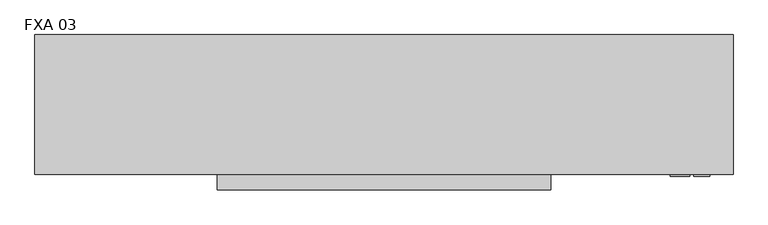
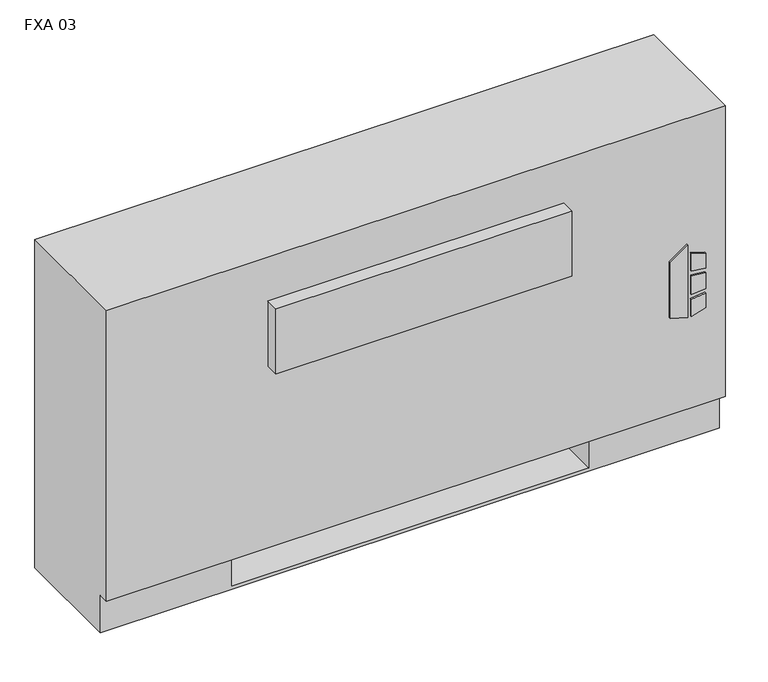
"""IFC4 building model written with IfcOpenShell, lengths in millimetres: proxy geometry, Vertical_Fan_Coil_Unit_-_FXA_-_IEC_-_4-Pipe_FS-FR_LH_2022 : FXA 03."""

from ifc_helpers import new_model, si_unit, point, frame, frame_2d, origin, place, context, project, spatial, polyline, circle_curve, trimmed, segment, composite_curve, outline, extrude, source, transform, mapped, element, save
from ifc_brep_helpers import plane_surface, revolved_surface, advanced_brep


def fxa_03_b8ff50d5(model_context):
    return source(origin(), model_context, "Body", "SolidModel", [
        extrude(outline(polyline([(263.9480703, 620.7868862), (254.0, 652.9602728), (396.1709244, 652.9602728), (373.1489183, 620.7868862), (263.9480703, 620.7868862)])), frame((0.0, 12.7, 0.0), z_axis=(0.0, 1.0, 0.0), x_axis=(0.0, 0.0, 1.0)), (0.0, 0.0, 1.0), 3.175),
        extrude(outline(polyline([(342.9473557, 659.7186058), (339.7449632, 685.8), (368.9738042, 685.8), (377.0382193, 659.7186058), (342.9473557, 659.7186058)])), frame((0.0, 12.7, 0.0), z_axis=(0.0, 1.0, 0.0), x_axis=(0.0, 0.0, 1.0)), (0.0, 0.0, 1.0), 3.175),
        extrude(outline(polyline([(291.0838288, 685.8), (287.4183279, 659.7186058), (254.0, 659.7186058), (262.6342372, 685.8), (291.0838288, 685.8)])), frame((0.0, 12.7, 0.0), z_axis=(0.0, 1.0, 0.0), x_axis=(0.0, 0.0, 1.0)), (0.0, 0.0, 1.0), 3.175),
        extrude(outline(polyline([(330.3989903, 685.8), (332.6808166, 659.7186058), (296.7432681, 659.7186058), (299.4845331, 685.8), (330.3989903, 685.8)])), frame((0.0, 12.7, 0.0), z_axis=(0.0, 1.0, 0.0), x_axis=(0.0, 0.0, 1.0)), (0.0, 0.0, 1.0), 3.175),
        extrude(outline(polyline([(603.25, 223.266), (603.25, 81.534), (482.6, 81.534), (482.6, 223.266), (603.25, 223.266)])), frame((0.0, 0.0, 327.025), z_axis=(0.0, 0.0, 1.0), x_axis=(1.0, 0.0, 0.0)), (0.0, 0.0, 1.0), 260.35),
        extrude(outline(composite_curve([segment(trimmed(circle_curve(frame_2d((-241.3, 130.175)), 9.525), [point((-250.825, 130.175))], [point((-231.775, 130.175))], False, "CARTESIAN"), True, "CONTINUOUS"), segment(trimmed(circle_curve(frame_2d((-241.3, 130.175)), 9.525), [point((-231.775, 130.175))], [point((-250.825, 130.175))], False, "CARTESIAN"), True, "CONTINUOUS")], self_intersect=False)), frame((0.0, 0.0, 101.6), z_axis=(0.0, 0.0, 1.0), x_axis=(1.0, 0.0, 0.0)), (0.0, 0.0, 1.0), 25.4),
        extrude(outline(polyline([(-342.9, 63.5), (-342.9, 196.85), (-177.8, 196.85), (-177.8, 63.5), (-342.9, 63.5)])), frame((0.0, 0.0, 127.0), z_axis=(0.0, 0.0, 1.0), x_axis=(1.0, 0.0, 0.0)), (0.0, 0.0, 1.0), 50.8),
        extrude(outline(polyline([(425.45, -9.525), (-120.65, -9.525), (-120.65, 15.875), (425.45, 15.875), (425.45, -9.525)])), frame((0.0, 0.0, 428.625), z_axis=(0.0, 0.0, 1.0), x_axis=(1.0, 0.0, 0.0)), (0.0, 0.0, 1.0), 127.0),
        extrude(outline(composite_curve([segment(trimmed(circle_curve(frame_2d((117.475, 472.44)), 7.9375), [point((117.475, 480.3775))], [point((117.475, 464.5025))], False, "CARTESIAN"), True, "CONTINUOUS"), segment(trimmed(circle_curve(frame_2d((117.475, 472.44)), 7.9375), [point((117.475, 464.5025))], [point((117.475, 480.3775))], False, "CARTESIAN"), True, "CONTINUOUS")], self_intersect=False)), frame((-228.6, 0.0, 0.0), z_axis=(1.0, 0.0, 0.0), x_axis=(0.0, 1.0, 0.0)), (0.0, 0.0, 1.0), 50.8),
        extrude(outline(composite_curve([segment(trimmed(circle_curve(frame_2d((164.0586, 445.897)), 7.9375), [point((164.0586, 453.8345))], [point((164.0586, 437.9595))], False, "CARTESIAN"), True, "CONTINUOUS"), segment(trimmed(circle_curve(frame_2d((164.0586, 445.897)), 7.9375), [point((164.0586, 437.9595))], [point((164.0586, 453.8345))], False, "CARTESIAN"), True, "CONTINUOUS")], self_intersect=False)), frame((-228.6, 0.0, 0.0), z_axis=(1.0, 0.0, 0.0), x_axis=(0.0, 1.0, 0.0)), (0.0, 0.0, 1.0), 50.8),
        extrude(outline(composite_curve([segment(trimmed(circle_curve(frame_2d((130.175, 554.99)), 7.9502), [point((130.175, 562.9402))], [point((130.175, 547.0398))], False, "CARTESIAN"), True, "CONTINUOUS"), segment(trimmed(circle_curve(frame_2d((130.175, 554.99)), 7.9502), [point((130.175, 547.0398))], [point((130.175, 562.9402))], False, "CARTESIAN"), True, "CONTINUOUS")], self_intersect=False)), frame((-228.6, 0.0, 0.0), z_axis=(1.0, 0.0, 0.0), x_axis=(0.0, 1.0, 0.0)), (0.0, 0.0, 1.0), 50.8),
        extrude(outline(composite_curve([segment(trimmed(circle_curve(frame_2d((53.975, 416.56)), 7.9502), [point((53.975, 424.5102))], [point((53.975, 408.6098))], False, "CARTESIAN"), True, "CONTINUOUS"), segment(trimmed(circle_curve(frame_2d((53.975, 416.56)), 7.9502), [point((53.975, 408.6098))], [point((53.975, 424.5102))], False, "CARTESIAN"), True, "CONTINUOUS")], self_intersect=False)), frame((-228.6, 0.0, 0.0), z_axis=(1.0, 0.0, 0.0), x_axis=(0.0, 1.0, 0.0)), (0.0, 0.0, 1.0), 50.8),
        advanced_brep(
        [(723.9, 244.475, 641.35), (-419.1, 244.475, 641.35), (-419.1, 15.875, 641.35), (723.9, 15.875, 641.35), (-419.1, 244.475, 0.0), (723.9, 244.475, 0.0), (723.9, 34.925, 0.0), (-419.1, 34.925, 0.0), (482.6, 244.475, 73.025), (711.2, 244.475, 73.025), (711.2, 244.475, 628.65), (482.6, 244.475, 628.65), (482.6, 244.475, 414.8650565), (511.175, 244.475, 414.8650565), (511.175, 244.475, 385.2349435), (482.6, 244.475, 385.2349435), (482.6, 244.475, 287.3375), (511.175, 244.475, 287.3375), (511.175, 244.475, 258.7625), (482.6, 244.475, 258.7625), (482.6, 244.475, 141.2875), (511.175, 244.475, 141.2875), (511.175, 244.475, 112.7125), (482.6, 244.475, 112.7125), (-177.8, 244.475, 628.65), (-406.4, 244.475, 628.65), (-406.4, 244.475, 73.025), (-177.8, 244.475, 73.025), (-177.8, 244.475, 112.7125), (-206.375, 244.475, 112.7125), (-206.375, 244.475, 141.2875), (-177.8, 244.475, 141.2875), (-177.8, 244.475, 258.7625), (-206.375, 244.475, 258.7625), (-206.375, 244.475, 287.3375), (-177.8, 244.475, 287.3375), (-177.8, 244.475, 385.2349435), (-206.375, 244.475, 385.2349435), (-206.375, 244.475, 414.8650565), (-177.8, 244.475, 414.8650565), (500.8626, 244.475, 127.0), (489.7374, 244.475, 127.0), (500.8626, 244.475, 400.05), (489.7374, 244.475, 400.05), (500.8626, 244.475, 273.05), (489.7374, 244.475, 273.05), (-184.9374, 244.475, 127.0), (-196.0626, 244.475, 127.0), (-184.9374, 244.475, 273.05), (-196.0626, 244.475, 273.05), (-184.9374, 244.475, 400.05), (-196.0626, 244.475, 400.05), (-419.1, 34.925, 73.025), (-419.1, 15.875, 73.025), (723.9, 15.875, 73.025), (723.9, 34.925, 73.025), (-177.8, 34.925, 73.025), (-177.8, 219.075, 73.025), (482.6, 219.075, 73.025), (482.6, 34.925, 73.025), (482.6, 34.925, 6.35), (-177.8, 34.925, 6.35), (482.6, 41.275, 628.65), (711.2, 41.275, 628.65), (711.2, 41.275, 73.025), (482.6, 41.275, 73.025), (-177.8, 41.275, 628.65), (-177.8, 41.275, 73.025), (-406.4, 41.275, 73.025), (-406.4, 41.275, 628.65), (482.6, 219.075, 73.025), (482.6, 238.125, 112.7125), (482.6, 238.125, 141.2875), (482.6, 238.125, 258.7625), (482.6, 238.125, 287.3375), (482.6, 238.125, 385.2349435), (482.6, 238.125, 414.8650565), (-177.8, 219.075, 73.025), (-177.8, 238.125, 414.8650565), (-177.8, 238.125, 385.2349435), (-177.8, 238.125, 287.3375), (-177.8, 238.125, 258.7625), (-177.8, 238.125, 141.2875), (-177.8, 238.125, 112.7125), (-177.8, 219.075, 6.35), (482.6, 219.075, 6.35), (511.175, 238.125, 112.7125), (511.175, 238.125, 141.2875), (489.7374, 238.125, 127.0), (500.8626, 238.125, 127.0), (511.175, 238.125, 258.7625), (511.175, 238.125, 287.3375), (489.7374, 238.125, 273.05), (500.8626, 238.125, 273.05), (511.175, 238.125, 385.2349435), (511.175, 238.125, 414.8650565), (489.7374, 238.125, 400.05), (500.8626, 238.125, 400.05), (-206.375, 238.125, 141.2875), (-206.375, 238.125, 112.7125), (-196.0626, 238.125, 127.0), (-184.9374, 238.125, 127.0), (-206.375, 238.125, 287.3375), (-206.375, 238.125, 258.7625), (-196.0626, 238.125, 273.05), (-184.9374, 238.125, 273.05), (-206.375, 238.125, 414.8650565), (-206.375, 238.125, 385.2349435), (-196.0626, 238.125, 400.05), (-184.9374, 238.125, 400.05)],
        [
            (0, 1),
            (1, 2),
            (2, 3),
            (3, 0),
            (4, 5),
            (5, 6),
            (6, 7),
            (7, 4),
            (0, 5),
            (4, 1),
            (8, 9),
            (9, 10),
            (10, 11),
            (11, 12),
            (12, 13),
            (13, 14),
            (14, 15),
            (15, 16),
            (16, 17),
            (17, 18),
            (18, 19),
            (19, 20),
            (20, 21),
            (21, 22),
            (22, 23),
            (23, 8),
            (24, 25),
            (25, 26),
            (26, 27),
            (27, 28),
            (28, 29),
            (29, 30),
            (30, 31),
            (31, 32),
            (32, 33),
            (33, 34),
            (34, 35),
            (35, 36),
            (36, 37),
            (37, 38),
            (38, 39),
            (39, 24),
            (40, 41, circle_curve(frame((495.3, 244.475, 127.0), z_axis=(0.0, -1.0, 0.0), x_axis=(-1.0, 0.0, 0.0)), 5.5626)),
            (41, 40, circle_curve(frame((495.3, 244.475, 127.0), z_axis=(0.0, -1.0, 0.0), x_axis=(-1.0, 0.0, 0.0)), 5.5626)),
            (42, 43, circle_curve(frame((495.3, 244.475, 400.05), z_axis=(0.0, -1.0, 0.0), x_axis=(-1.0, 0.0, 0.0)), 5.5626)),
            (43, 42, circle_curve(frame((495.3, 244.475, 400.05), z_axis=(0.0, -1.0, 0.0), x_axis=(-1.0, 0.0, 0.0)), 5.5626)),
            (44, 45, circle_curve(frame((495.3, 244.475, 273.05), z_axis=(0.0, -1.0, 0.0), x_axis=(-1.0, 0.0, 0.0)), 5.5626)),
            (45, 44, circle_curve(frame((495.3, 244.475, 273.05), z_axis=(0.0, -1.0, 0.0), x_axis=(-1.0, 0.0, 0.0)), 5.5626)),
            (46, 47, circle_curve(frame((-190.5, 244.475, 127.0), z_axis=(0.0, -1.0, 0.0), x_axis=(-1.0, 0.0, 0.0)), 5.5626)),
            (47, 46, circle_curve(frame((-190.5, 244.475, 127.0), z_axis=(0.0, -1.0, 0.0), x_axis=(-1.0, 0.0, 0.0)), 5.5626)),
            (48, 49, circle_curve(frame((-190.5, 244.475, 273.05), z_axis=(0.0, -1.0, 0.0), x_axis=(-1.0, 0.0, 0.0)), 5.5626)),
            (49, 48, circle_curve(frame((-190.5, 244.475, 273.05), z_axis=(0.0, -1.0, 0.0), x_axis=(-1.0, 0.0, 0.0)), 5.5626)),
            (50, 51, circle_curve(frame((-190.5, 244.475, 400.05), z_axis=(0.0, -1.0, 0.0), x_axis=(-1.0, 0.0, 0.0)), 5.5626)),
            (51, 50, circle_curve(frame((-190.5, 244.475, 400.05), z_axis=(0.0, -1.0, 0.0), x_axis=(-1.0, 0.0, 0.0)), 5.5626)),
            (7, 52),
            (52, 53),
            (53, 2),
            (53, 54),
            (54, 3),
            (54, 55),
            (55, 6),
            (52, 56),
            (56, 57),
            (57, 58),
            (58, 59),
            (59, 55),
            (59, 60),
            (60, 61),
            (61, 56),
            (62, 63),
            (63, 64),
            (64, 65),
            (65, 62),
            (66, 67),
            (67, 68),
            (68, 69),
            (69, 66),
            (65, 70),
            (70, 8),
            (23, 71),
            (71, 72),
            (72, 20),
            (19, 73),
            (73, 74),
            (74, 16),
            (15, 75),
            (75, 76),
            (76, 12),
            (11, 62),
            (64, 9),
            (63, 10),
            (69, 25),
            (24, 66),
            (68, 26),
            (67, 77),
            (77, 27),
            (39, 78),
            (78, 79),
            (79, 36),
            (35, 80),
            (80, 81),
            (81, 32),
            (31, 82),
            (82, 83),
            (83, 28),
            (57, 84),
            (84, 85),
            (85, 58),
            (85, 60),
            (84, 61),
            (71, 86),
            (86, 87),
            (87, 72),
            (88, 89, circle_curve(frame((495.3, 238.125, 127.0), z_axis=(0.0, 1.0, 0.0), x_axis=(-1.0, 0.0, 0.0)), 5.5626)),
            (89, 88, circle_curve(frame((495.3, 238.125, 127.0), z_axis=(0.0, 1.0, 0.0), x_axis=(-1.0, 0.0, 0.0)), 5.5626)),
            (73, 90),
            (90, 91),
            (91, 74),
            (92, 93, circle_curve(frame((495.3, 238.125, 273.05), z_axis=(0.0, 1.0, 0.0), x_axis=(-1.0, 0.0, 0.0)), 5.5626)),
            (93, 92, circle_curve(frame((495.3, 238.125, 273.05), z_axis=(0.0, 1.0, 0.0), x_axis=(-1.0, 0.0, 0.0)), 5.5626)),
            (75, 94),
            (94, 95),
            (95, 76),
            (96, 97, circle_curve(frame((495.3, 238.125, 400.05), z_axis=(0.0, 1.0, 0.0), x_axis=(-1.0, 0.0, 0.0)), 5.5626)),
            (97, 96, circle_curve(frame((495.3, 238.125, 400.05), z_axis=(0.0, 1.0, 0.0), x_axis=(-1.0, 0.0, 0.0)), 5.5626)),
            (98, 99),
            (99, 83),
            (82, 98),
            (100, 101, circle_curve(frame((-190.5, 238.125, 127.0), z_axis=(0.0, 1.0, 0.0), x_axis=(-1.0, 0.0, 0.0)), 5.5626)),
            (101, 100, circle_curve(frame((-190.5, 238.125, 127.0), z_axis=(0.0, 1.0, 0.0), x_axis=(-1.0, 0.0, 0.0)), 5.5626)),
            (102, 103),
            (103, 81),
            (80, 102),
            (104, 105, circle_curve(frame((-190.5, 238.125, 273.05), z_axis=(0.0, 1.0, 0.0), x_axis=(-1.0, 0.0, 0.0)), 5.5626)),
            (105, 104, circle_curve(frame((-190.5, 238.125, 273.05), z_axis=(0.0, 1.0, 0.0), x_axis=(-1.0, 0.0, 0.0)), 5.5626)),
            (106, 107),
            (107, 79),
            (78, 106),
            (108, 109, circle_curve(frame((-190.5, 238.125, 400.05), z_axis=(0.0, 1.0, 0.0), x_axis=(-1.0, 0.0, 0.0)), 5.5626)),
            (109, 108, circle_curve(frame((-190.5, 238.125, 400.05), z_axis=(0.0, 1.0, 0.0), x_axis=(-1.0, 0.0, 0.0)), 5.5626)),
            (87, 21),
            (86, 22),
            (91, 17),
            (90, 18),
            (95, 13),
            (94, 14),
            (30, 98),
            (99, 29),
            (34, 102),
            (103, 33),
            (38, 106),
            (107, 37),
            (88, 41),
            (40, 89),
            (96, 43),
            (42, 97),
            (92, 45),
            (44, 93),
            (100, 47),
            (46, 101),
            (104, 49),
            (48, 105),
            (108, 51),
            (50, 109),
        ],
        [
            plane_surface(frame((-419.1, 244.475, 641.35), z_axis=(0.0, 0.0, 1.0), x_axis=(-1.0, 0.0, 0.0))),
            plane_surface(frame((-419.1, 244.475, 0.0), z_axis=(0.0, 0.0, -1.0), x_axis=(1.0, 0.0, 0.0))),
            plane_surface(frame((723.9, 244.475, 641.35), z_axis=(0.0, 1.0, 0.0), x_axis=(0.0, 0.0, -1.0))),
            plane_surface(frame((-419.1, 244.475, 641.35), z_axis=(-1.0, 0.0, 0.0), x_axis=(0.0, 0.0, -1.0))),
            plane_surface(frame((-419.1, 15.875, 641.35), z_axis=(0.0, -1.0, 0.0), x_axis=(0.0, 0.0, -1.0))),
            plane_surface(frame((723.9, 15.875, 641.35), z_axis=(1.0, 0.0, 0.0), x_axis=(0.0, 0.0, -1.0))),
            plane_surface(frame((-419.1, 15.875, 73.025), z_axis=(0.0, 0.0, -1.0), x_axis=(1.0, 0.0, 0.0))),
            plane_surface(frame((-419.1, 34.925, 73.025), z_axis=(0.0, -1.0, 0.0), x_axis=(1.0, 0.0, 0.0))),
            plane_surface(frame((482.6, 41.275, 628.65), z_axis=(0.0, 1.0, 0.0), x_axis=(0.0, 0.0, -1.0))),
            plane_surface(frame((482.6, 41.275, 628.65), z_axis=(1.0, 0.0, 0.0), x_axis=(0.0, 1.0, 0.0))),
            plane_surface(frame((482.6, 41.275, 73.025), z_axis=(0.0, 0.0, 1.0), x_axis=(0.0, 1.0, 0.0))),
            plane_surface(frame((711.2, 41.275, 73.025), z_axis=(-1.0, 0.0, 0.0), x_axis=(0.0, 1.0, 0.0))),
            plane_surface(frame((711.2, 41.275, 628.65), z_axis=(0.0, 0.0, -1.0), x_axis=(0.0, 1.0, 0.0))),
            plane_surface(frame((-177.8, 41.275, 628.65), z_axis=(0.0, 0.0, -1.0), x_axis=(0.0, 1.0, 0.0))),
            plane_surface(frame((-406.4, 41.275, 628.65), z_axis=(1.0, 0.0, 0.0), x_axis=(0.0, 1.0, 0.0))),
            plane_surface(frame((-406.4, 41.275, 73.025), z_axis=(0.0, 0.0, 1.0), x_axis=(0.0, 1.0, 0.0))),
            plane_surface(frame((-177.8, 41.275, 73.025), z_axis=(-1.0, 0.0, 0.0), x_axis=(0.0, 1.0, 0.0))),
            plane_surface(frame((482.6, 219.075, 73.025), z_axis=(0.0, -1.0, 0.0), x_axis=(0.0, 0.0, -1.0))),
            plane_surface(frame((482.6, 219.075, 73.025), z_axis=(-1.0, 0.0, 0.0), x_axis=(0.0, -1.0, 0.0))),
            plane_surface(frame((482.6, 219.075, 6.35), z_axis=(0.0, 0.0, 1.0), x_axis=(0.0, -1.0, 0.0))),
            plane_surface(frame((-177.8, 219.075, 6.35), z_axis=(1.0, 0.0, 0.0), x_axis=(0.0, -1.0, 0.0))),
            plane_surface(frame((511.175, 238.125, 141.2875), z_axis=(0.0, -1.0, 0.0), x_axis=(-1.0, 0.0, 0.0))),
            plane_surface(frame((482.6, 244.475, 141.2875), z_axis=(0.0, 0.0, 1.0), x_axis=(0.0, -1.0, 0.0))),
            plane_surface(frame((511.175, 244.475, 141.2875), z_axis=(1.0, 0.0, 0.0), x_axis=(0.0, -1.0, 0.0))),
            plane_surface(frame((511.175, 244.475, 112.7125), z_axis=(0.0, 0.0, -1.0), x_axis=(0.0, -1.0, 0.0))),
            plane_surface(frame((482.6, 244.475, 287.3375), z_axis=(0.0, 0.0, 1.0), x_axis=(0.0, -1.0, 0.0))),
            plane_surface(frame((511.175, 244.475, 287.3375), z_axis=(1.0, 0.0, 0.0), x_axis=(0.0, -1.0, 0.0))),
            plane_surface(frame((511.175, 244.475, 258.7625), z_axis=(0.0, 0.0, -1.0), x_axis=(0.0, -1.0, 0.0))),
            plane_surface(frame((482.6, 244.475, 414.8650565), z_axis=(0.0, 0.0, 1.0), x_axis=(0.0, -1.0, 0.0))),
            plane_surface(frame((511.175, 244.475, 414.8650565), z_axis=(1.0, 0.0, 0.0), x_axis=(0.0, -1.0, 0.0))),
            plane_surface(frame((511.175, 244.475, 385.2349435), z_axis=(0.0, 0.0, -1.0), x_axis=(0.0, -1.0, 0.0))),
            plane_surface(frame((-206.375, 244.475, 141.2875), z_axis=(0.0, 0.0, 1.0), x_axis=(0.0, -1.0, 0.0))),
            plane_surface(frame((-177.8, 244.475, 112.7125), z_axis=(0.0, 0.0, -1.0), x_axis=(0.0, -1.0, 0.0))),
            plane_surface(frame((-206.375, 244.475, 112.7125), z_axis=(-1.0, 0.0, 0.0), x_axis=(0.0, -1.0, 0.0))),
            plane_surface(frame((-206.375, 244.475, 287.3375), z_axis=(0.0, 0.0, 1.0), x_axis=(0.0, -1.0, 0.0))),
            plane_surface(frame((-177.8, 244.475, 258.7625), z_axis=(0.0, 0.0, -1.0), x_axis=(0.0, -1.0, 0.0))),
            plane_surface(frame((-206.375, 244.475, 258.7625), z_axis=(-1.0, 0.0, 0.0), x_axis=(0.0, -1.0, 0.0))),
            plane_surface(frame((-206.375, 244.475, 414.8650565), z_axis=(0.0, 0.0, 1.0), x_axis=(0.0, -1.0, 0.0))),
            plane_surface(frame((-177.8, 244.475, 385.2349435), z_axis=(0.0, 0.0, -1.0), x_axis=(0.0, -1.0, 0.0))),
            plane_surface(frame((-206.375, 244.475, 385.2349435), z_axis=(-1.0, 0.0, 0.0), x_axis=(0.0, -1.0, 0.0))),
            revolved_surface(polyline([(489.73740000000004, 238.125, 127.0), (489.73740000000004, 244.475, 127.0)]), (495.3, 244.475, 127.0), (0.0, -1.0, 0.0)),
            revolved_surface(polyline([(489.73740000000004, 238.125, 400.05), (489.73740000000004, 244.475, 400.05)]), (495.3, 244.475, 400.05), (0.0, -1.0, 0.0)),
            revolved_surface(polyline([(489.73740000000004, 238.125, 273.05), (489.73740000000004, 244.475, 273.05)]), (495.3, 244.475, 273.05), (0.0, -1.0, 0.0)),
            revolved_surface(polyline([(-196.0626, 238.125, 127.0), (-196.0626, 244.475, 127.0)]), (-190.5, 244.475, 127.0), (0.0, -1.0, 0.0)),
            revolved_surface(polyline([(-196.0626, 238.125, 273.05), (-196.0626, 244.475, 273.05)]), (-190.5, 244.475, 273.05), (0.0, -1.0, 0.0)),
            revolved_surface(polyline([(-196.0626, 238.125, 400.05), (-196.0626, 244.475, 400.05)]), (-190.5, 244.475, 400.05), (0.0, -1.0, 0.0)),
        ],
        [
            (0, [[1, 2, 3, 4]]),
            (1, [[5, 6, 7, 8]]),
            (2, [[-1, 9, -5, 10], [11, 12, 13, 14, 15, 16, 17, 18, 19, 20, 21, 22, 23, 24, 25, 26], [27, 28, 29, 30, 31, 32, 33, 34, 35, 36, 37, 38, 39, 40, 41, 42], [43, 44], [45, 46], [47, 48], [49, 50], [51, 52], [53, 54]]),
            (3, [[-2, -10, -8, 55, 56, 57]]),
            (4, [[-3, -57, 58, 59]]),
            (5, [[-4, -59, 60, 61, -6, -9]]),
            (6, [[-56, 62, 63, 64, 65, 66, -60, -58]]),
            (7, [[-7, -61, -66, 67, 68, 69, -62, -55]]),
            (8, [[70, 71, 72, 73]]),
            (8, [[74, 75, 76, 77]]),
            (9, [[-73, 78, 79, -26, 80, 81, 82, -22, 83, 84, 85, -18, 86, 87, 88, -14, 89]]),
            (10, [[-72, 90, -11, -79, -78]]),
            (11, [[-71, 91, -12, -90]]),
            (12, [[-70, -89, -13, -91]]),
            (13, [[-77, 92, -27, 93]]),
            (14, [[-76, 94, -28, -92]]),
            (15, [[-75, 95, 96, -29, -94]]),
            (16, [[-74, -93, -42, 97, 98, 99, -38, 100, 101, 102, -34, 103, 104, 105, -30, -96, -95]]),
            (17, [[-64, 106, 107, 108]]),
            (18, [[-108, 109, -67, -65]]),
            (19, [[-107, 110, -68, -109]]),
            (20, [[-106, -63, -69, -110]]),
            (21, [[111, 112, 113, -81], [114, 115]]),
            (21, [[116, 117, 118, -84], [119, 120]]),
            (21, [[121, 122, 123, -87], [124, 125]]),
            (21, [[126, 127, -104, 128], [129, 130]]),
            (21, [[131, 132, -101, 133], [134, 135]]),
            (21, [[136, 137, -98, 138], [139, 140]]),
            (22, [[-113, 141, -23, -82]]),
            (23, [[-112, 142, -24, -141]]),
            (24, [[-111, -80, -25, -142]]),
            (25, [[-118, 143, -19, -85]]),
            (26, [[-117, 144, -20, -143]]),
            (27, [[-116, -83, -21, -144]]),
            (28, [[-123, 145, -15, -88]]),
            (29, [[-122, 146, -16, -145]]),
            (30, [[-121, -86, -17, -146]]),
            (31, [[-128, -103, -33, 147]]),
            (32, [[-127, 148, -31, -105]]),
            (33, [[-126, -147, -32, -148]]),
            (34, [[-133, -100, -37, 149]]),
            (35, [[-132, 150, -35, -102]]),
            (36, [[-131, -149, -36, -150]]),
            (37, [[-138, -97, -41, 151]]),
            (38, [[-137, 152, -39, -99]]),
            (39, [[-136, -151, -40, -152]]),
            (40, [[153, -43, 154, -114]]),
            (40, [[-153, -115, -154, -44]]),
            (41, [[155, -45, 156, -124]]),
            (41, [[-155, -125, -156, -46]]),
            (42, [[157, -47, 158, -119]]),
            (42, [[-157, -120, -158, -48]]),
            (43, [[159, -49, 160, -129]]),
            (43, [[-159, -130, -160, -50]]),
            (44, [[161, -51, 162, -134]]),
            (44, [[-161, -135, -162, -52]]),
            (45, [[163, -53, 164, -139]]),
            (45, [[-163, -140, -164, -54]]),
        ],
    ),
    ])


if __name__ == "__main__":
    model = new_model("IFC4")
    model_context = context("Model", 3, world=origin())
    ifc_project = project(units=[si_unit("LENGTHUNIT", "METRE", prefix="MILLI")], contexts=[model_context])
    site = spatial("IfcSite", under=ifc_project)
    building = spatial("IfcBuilding", under=site)
    placement = place(None, origin())
    fxa_03_shape = fxa_03_b8ff50d5(model_context)
    element("IfcBuildingElementProxy", 1, Name="Vertical_Fan_Coil_Unit_-_FXA_-_IEC_-_4-Pipe_FS-FR_LH_2022 : FXA 03", ObjectType="Vertical_Fan_Coil_Unit_-_FXA_-_IEC_-_4-Pipe_FS-FR_LH_2022 : FXA 03", at=placement, inside=building, context=model_context, shape_type="MappedRepresentation", body=[
        mapped(fxa_03_shape, transform((0.0, 0.0, 0.0), x_axis=(1.0, 0.0, 0.0), y_axis=(0.0, 1.0, 0.0), z_axis=(0.0, 0.0, 1.0))),
    ])
    save(model, "model.ifc")
